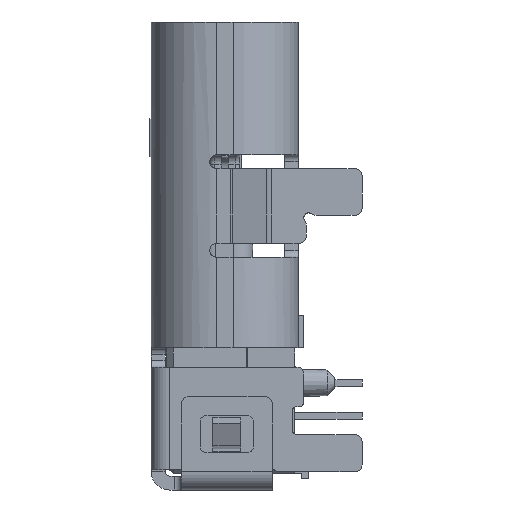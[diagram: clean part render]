
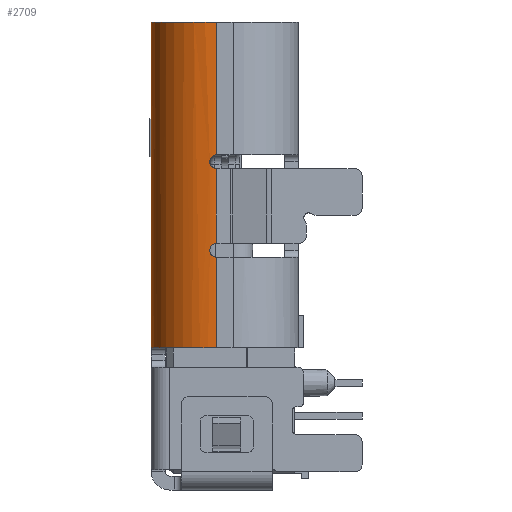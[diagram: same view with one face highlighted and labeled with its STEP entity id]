
A CAD part, left-side view. The second image highlights one B-rep face of the part: STEP entity #2709.
In plain terms, the highlighted cylindrical face has radius 1.4 mm (diameter 2.8 mm), a partial arc.
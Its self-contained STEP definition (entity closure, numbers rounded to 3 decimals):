
#16 = EDGE_CURVE ( 'NONE', #12162, #13396, #28826, .T. ) ;
#1352 = CARTESIAN_POINT ( 'NONE',  ( -1.303, 0.169, 1.95 ) ) ;
#1489 = ORIENTED_EDGE ( 'NONE', *, *, #4429, .F. ) ;
#1711 = ORIENTED_EDGE ( 'NONE', *, *, #6736, .F. ) ;
#1947 = CARTESIAN_POINT ( 'NONE',  ( -1.296, 0.309, 3.972 ) ) ;
#1986 = CIRCLE ( 'NONE', #25536, 1.4 ) ;
#2709 = ADVANCED_FACE ( 'NONE', ( #10298 ), #12756, .T. ) ;
#3106 = ORIENTED_EDGE ( 'NONE', *, *, #7376, .T. ) ;
#3142 = LINE ( 'NONE', #11211, #14006 ) ;
#3411 = VERTEX_POINT ( 'NONE', #26019 ) ;
#3626 = DIRECTION ( 'NONE',  ( 1., 0., 0. ) ) ;
#3660 = CARTESIAN_POINT ( 'NONE',  ( -1.296, 0.309, 2.128 ) ) ;
#3990 = CIRCLE ( 'NONE', #21151, 1.4 ) ;
#4429 = EDGE_CURVE ( 'NONE', #3411, #13396, #11436, .T. ) ;
#5239 = DIRECTION ( 'NONE',  ( 0., 0., 1. ) ) ;
#5319 = CARTESIAN_POINT ( 'NONE',  ( -1.203, 0.688, 0. ) ) ;
#5474 = DIRECTION ( 'NONE',  ( 0., 0., 1. ) ) ;
#5549 = DIRECTION ( 'NONE',  ( 0., 0., 1. ) ) ;
#5620 = VECTOR ( 'NONE', #7535, 1000. ) ;
#6302 = EDGE_CURVE ( 'NONE', #13400, #16208, #12753, .T. ) ;
#6353 = CARTESIAN_POINT ( 'NONE',  ( 0.097, 0.169, 7. ) ) ;
#6736 = EDGE_CURVE ( 'NONE', #13400, #22518, #20278, .T. ) ;
#7020 = VERTEX_POINT ( 'NONE', #5319 ) ;
#7160 = AXIS2_PLACEMENT_3D ( 'NONE', #28748, #5239, #19678 ) ;
#7206 = CARTESIAN_POINT ( 'NONE',  ( -1.303, 0.169, 4.15 ) ) ;
#7355 = CARTESIAN_POINT ( 'NONE',  ( -1.303, 0.169, 1.95 ) ) ;
#7376 = EDGE_CURVE ( 'NONE', #3411, #22518, #3142, .T. ) ;
#7535 = DIRECTION ( 'NONE',  ( 0., 0., 1. ) ) ;
#7778 = CARTESIAN_POINT ( 'NONE',  ( -1.303, 0.169, -2.6 ) ) ;
#8104 = ORIENTED_EDGE ( 'NONE', *, *, #17285, .F. ) ;
#8113 = ORIENTED_EDGE ( 'NONE', *, *, #27981, .F. ) ;
#8257 = CARTESIAN_POINT ( 'NONE',  ( -1.303, 0.169, 4.15 ) ) ;
#8412 = CARTESIAN_POINT ( 'NONE',  ( -1.297, 0.301, 2.168 ) ) ;
#8567 = ORIENTED_EDGE ( 'NONE', *, *, #6302, .T. ) ;
#8848 = DIRECTION ( 'NONE',  ( 1., 0., 0. ) ) ;
#8853 = CARTESIAN_POINT ( 'NONE',  ( -1.297, 0.301, 4.068 ) ) ;
#9673 = LINE ( 'NONE', #26130, #5620 ) ;
#9907 = CARTESIAN_POINT ( 'NONE',  ( -1.303, 0.169, 3.85 ) ) ;
#9994 = CARTESIAN_POINT ( 'NONE',  ( -1.303, 0.169, -2.6 ) ) ;
#10298 = FACE_OUTER_BOUND ( 'NONE', #27181, .T. ) ;
#10523 = DIRECTION ( 'NONE',  ( 0., 0., -1. ) ) ;
#11211 = CARTESIAN_POINT ( 'NONE',  ( -1.303, 0.169, -2.6 ) ) ;
#11252 = CARTESIAN_POINT ( 'NONE',  ( 0.097, 1.569, 0. ) ) ;
#11436 = B_SPLINE_CURVE_WITH_KNOTS ( 'NONE', 3,
 ( #24709, #29462, #27317, #8412, #3660, #13029, #22403, #27166, #20400, #1352 ),
 .UNSPECIFIED., .F., .F.,
 ( 4, 2, 2, 2, 4 ),
 ( 0., 0.25, 0.5, 0.75, 1. ),
 .UNSPECIFIED. ) ;
#12120 = EDGE_CURVE ( 'NONE', #28198, #19599, #9673, .T. ) ;
#12162 = VERTEX_POINT ( 'NONE', #16601 ) ;
#12458 = ORIENTED_EDGE ( 'NONE', *, *, #16, .T. ) ;
#12753 = LINE ( 'NONE', #9994, #20957 ) ;
#12756 = CYLINDRICAL_SURFACE ( 'NONE', #7160, 1.4 ) ;
#12837 = AXIS2_PLACEMENT_3D ( 'NONE', #26831, #10523, #3626 ) ;
#13029 = CARTESIAN_POINT ( 'NONE',  ( -1.296, 0.309, 2.072 ) ) ;
#13396 = VERTEX_POINT ( 'NONE', #7355 ) ;
#13400 = VERTEX_POINT ( 'NONE', #7206 ) ;
#14006 = VECTOR ( 'NONE', #29646, 1000. ) ;
#15806 = CARTESIAN_POINT ( 'NONE',  ( 0.097, 1.569, 7. ) ) ;
#16208 = VERTEX_POINT ( 'NONE', #16711 ) ;
#16601 = CARTESIAN_POINT ( 'NONE',  ( -1.303, 0.169, 0. ) ) ;
#16711 = CARTESIAN_POINT ( 'NONE',  ( -1.303, 0.169, 7. ) ) ;
#17285 = EDGE_CURVE ( 'NONE', #20032, #28198, #26089, .T. ) ;
#17630 = CARTESIAN_POINT ( 'NONE',  ( -1.303, 0.195, 3.852 ) ) ;
#17788 = CARTESIAN_POINT ( 'NONE',  ( -1.297, 0.302, 3.933 ) ) ;
#17937 = CARTESIAN_POINT ( 'NONE',  ( -1.302, 0.236, 4.137 ) ) ;
#18229 = CARTESIAN_POINT ( 'NONE',  ( 0.097, 0.169, 0. ) ) ;
#18511 = CARTESIAN_POINT ( 'NONE',  ( -0.806, 1.239, 0. ) ) ;
#19599 = VERTEX_POINT ( 'NONE', #15806 ) ;
#19678 = DIRECTION ( 'NONE',  ( 1., 0., 0. ) ) ;
#20032 = VERTEX_POINT ( 'NONE', #18511 ) ;
#20278 = B_SPLINE_CURVE_WITH_KNOTS ( 'NONE', 3,
 ( #8257, #20547, #17937, #8853, #29909, #1947, #17788, #22844, #17630, #27005 ),
 .UNSPECIFIED., .F., .F.,
 ( 4, 2, 2, 2, 4 ),
 ( 0., 0.25, 0.5, 0.75, 1. ),
 .UNSPECIFIED. ) ;
#20349 = VECTOR ( 'NONE', #5474, 1000. ) ;
#20400 = CARTESIAN_POINT ( 'NONE',  ( -1.303, 0.195, 1.952 ) ) ;
#20501 = DIRECTION ( 'NONE',  ( 1., 0., 0. ) ) ;
#20547 = CARTESIAN_POINT ( 'NONE',  ( -1.303, 0.195, 4.148 ) ) ;
#20957 = VECTOR ( 'NONE', #5549, 1000. ) ;
#21026 = EDGE_CURVE ( 'NONE', #12162, #7020, #1986, .T. ) ;
#21151 = AXIS2_PLACEMENT_3D ( 'NONE', #18229, #23284, #8848 ) ;
#21587 = ORIENTED_EDGE ( 'NONE', *, *, #21026, .F. ) ;
#22403 = CARTESIAN_POINT ( 'NONE',  ( -1.297, 0.302, 2.033 ) ) ;
#22518 = VERTEX_POINT ( 'NONE', #9907 ) ;
#22844 = CARTESIAN_POINT ( 'NONE',  ( -1.302, 0.235, 3.862 ) ) ;
#23097 = DIRECTION ( 'NONE',  ( 0., 0., 1. ) ) ;
#23162 = ORIENTED_EDGE ( 'NONE', *, *, #12120, .F. ) ;
#23284 = DIRECTION ( 'NONE',  ( 0., 0., -1. ) ) ;
#23309 = DIRECTION ( 'NONE',  ( 0., 0., -1. ) ) ;
#24709 = CARTESIAN_POINT ( 'NONE',  ( -1.303, 0.169, 2.25 ) ) ;
#25067 = CIRCLE ( 'NONE', #29981, 1.4 ) ;
#25536 = AXIS2_PLACEMENT_3D ( 'NONE', #25615, #23309, #29621 ) ;
#25615 = CARTESIAN_POINT ( 'NONE',  ( 0.097, 0.169, 0. ) ) ;
#26019 = CARTESIAN_POINT ( 'NONE',  ( -1.303, 0.169, 2.25 ) ) ;
#26089 = CIRCLE ( 'NONE', #12837, 1.4 ) ;
#26130 = CARTESIAN_POINT ( 'NONE',  ( 0.097, 1.569, -2.6 ) ) ;
#26831 = CARTESIAN_POINT ( 'NONE',  ( 0.097, 0.169, 0. ) ) ;
#27005 = CARTESIAN_POINT ( 'NONE',  ( -1.303, 0.169, 3.85 ) ) ;
#27166 = CARTESIAN_POINT ( 'NONE',  ( -1.302, 0.235, 1.962 ) ) ;
#27181 = EDGE_LOOP ( 'NONE', ( #1711, #8567, #28081, #23162, #8104, #8113, #21587, #12458, #1489, #3106 ) ) ;
#27196 = EDGE_CURVE ( 'NONE', #19599, #16208, #25067, .T. ) ;
#27317 = CARTESIAN_POINT ( 'NONE',  ( -1.302, 0.236, 2.237 ) ) ;
#27981 = EDGE_CURVE ( 'NONE', #7020, #20032, #3990, .T. ) ;
#28081 = ORIENTED_EDGE ( 'NONE', *, *, #27196, .F. ) ;
#28198 = VERTEX_POINT ( 'NONE', #11252 ) ;
#28748 = CARTESIAN_POINT ( 'NONE',  ( 0.097, 0.169, -2.6 ) ) ;
#28826 = LINE ( 'NONE', #7778, #20349 ) ;
#29462 = CARTESIAN_POINT ( 'NONE',  ( -1.303, 0.195, 2.248 ) ) ;
#29621 = DIRECTION ( 'NONE',  ( 1., 0., 0. ) ) ;
#29646 = DIRECTION ( 'NONE',  ( 0., 0., 1. ) ) ;
#29909 = CARTESIAN_POINT ( 'NONE',  ( -1.296, 0.309, 4.028 ) ) ;
#29981 = AXIS2_PLACEMENT_3D ( 'NONE', #6353, #23097, #20501 ) ;
